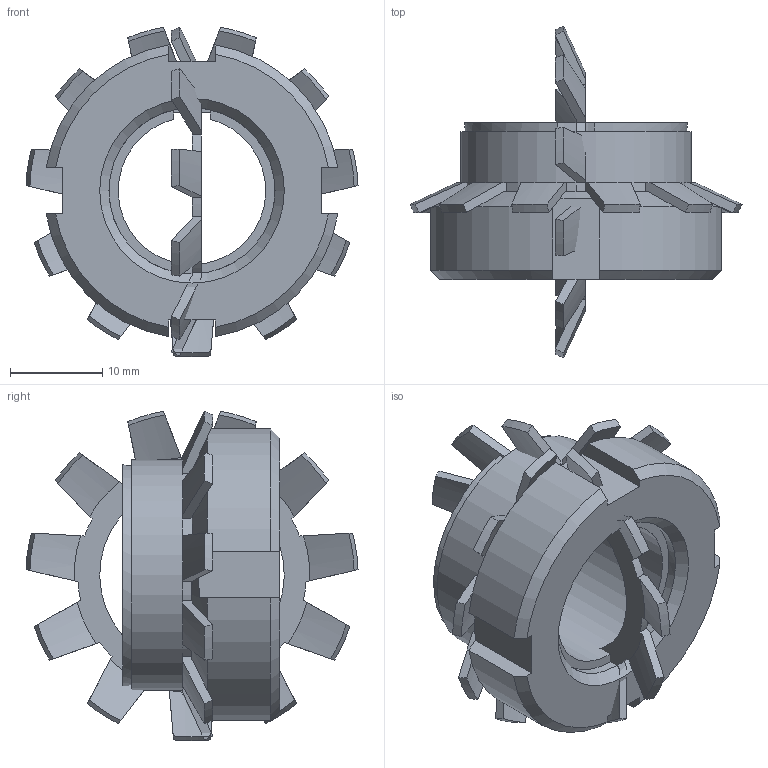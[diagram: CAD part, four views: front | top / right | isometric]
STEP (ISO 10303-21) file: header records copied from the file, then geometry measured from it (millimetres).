
FILE_DESCRIPTION( ( 'Unknown' ), '1' );
FILE_NAME( 'C:/Dokumente und Einstellungen/Sven/Desktop/homepage/cad - homepage/KBS51/KBS 51 - 16 x 25.stp', 'Unknown', ( 'Unknown' ), ( 'Unknown' ), 'XStep 1.0', 'Unknown', ' ' );
FILE_SCHEMA( ( 'automotive_design' ) );
Length unit declared in the file: millimetre
Products named in the file (3): Assem1; KBS 51 - 16 x 25; 08570040_locking_plate_din_5406_mb_4_2_14a
Bounding box: 35.98 x 35.98 x 35.72 mm (x, y, z)
Volume: 14733.1 mm3; surface area: 9501.9 mm2
Topology: 4 solids, 4 shells, 216 faces, 616 edges, 408 vertices
Faces by surface type: plane 96, cone 82, cylinder 38
Full cylindrical faces by diameter (mm): 18 x2, 25 x2
Entity records: 3880 total; most frequent: CARTESIAN_POINT 807, ORIENTED_EDGE 604, DIRECTION 572, EDGE_CURVE 302, AXIS2_PLACEMENT_3D 225, VERTEX_POINT 202, LINE 122, VECTOR 122
